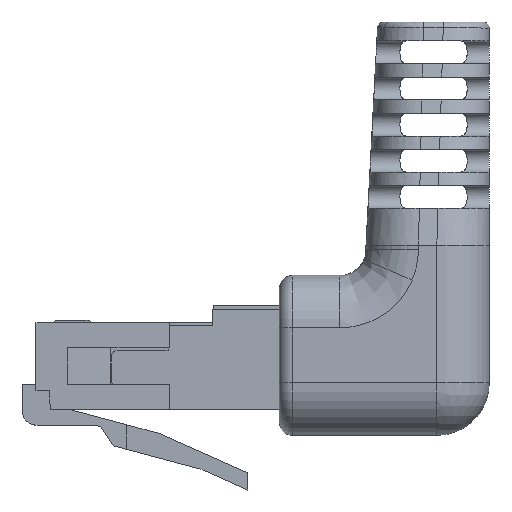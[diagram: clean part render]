
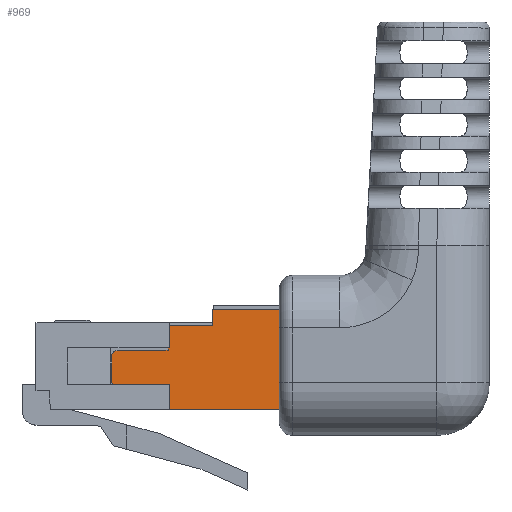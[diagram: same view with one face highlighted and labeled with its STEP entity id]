
A CAD part, left-side view. The second image highlights one B-rep face of the part: STEP entity #969.
In plain terms, the highlighted planar face has unit normal (-1, 0, 0).
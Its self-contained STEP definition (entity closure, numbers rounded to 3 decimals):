
#131=CARTESIAN_POINT('',(-5.824,16.492,-9.079));
#132=VERTEX_POINT('',#131);
#147=CARTESIAN_POINT('',(-5.824,16.492,-9.273));
#148=VERTEX_POINT('',#147);
#155=CARTESIAN_POINT('',(-5.824,16.492,-9.273));
#156=DIRECTION('',(0.0,0.0,1.0));
#157=VECTOR('',#156,0.194);
#158=LINE('',#155,#157);
#159=EDGE_CURVE('',#148,#132,#158,.T.);
#581=CARTESIAN_POINT('',(-5.824,20.692,-11.873));
#582=VERTEX_POINT('',#581);
#591=CARTESIAN_POINT('',(-5.824,20.792,-11.573));
#592=VERTEX_POINT('',#591);
#593=CARTESIAN_POINT('',(-5.824,20.292,-11.573));
#594=DIRECTION('',(1.0,0.,0.));
#595=DIRECTION('',(0.,0.707,-0.707));
#596=AXIS2_PLACEMENT_3D('',#593,#594,#595);
#597=CIRCLE('',#596,0.5);
#598=EDGE_CURVE('',#582,#592,#597,.T.);
#624=CARTESIAN_POINT('',(-5.824,20.792,-9.773));
#625=VERTEX_POINT('',#624);
#626=CARTESIAN_POINT('',(-5.824,20.792,-11.573));
#627=DIRECTION('',(0.0,0.0,1.0));
#628=VECTOR('',#627,1.8);
#629=LINE('',#626,#628);
#630=EDGE_CURVE('',#592,#625,#629,.T.);
#654=CARTESIAN_POINT('',(-5.824,20.292,-9.273));
#655=VERTEX_POINT('',#654);
#656=CARTESIAN_POINT('',(-5.824,20.292,-9.773));
#657=DIRECTION('',(1.0,0.,0.));
#658=DIRECTION('',(0.,0.707,0.707));
#659=AXIS2_PLACEMENT_3D('',#656,#657,#658);
#660=CIRCLE('',#659,0.5);
#661=EDGE_CURVE('',#625,#655,#660,.T.);
#759=CARTESIAN_POINT('',(-5.825,8.008,-13.773));
#760=VERTEX_POINT('',#759);
#769=CARTESIAN_POINT('',(-5.824,16.392,-13.773));
#770=VERTEX_POINT('',#769);
#771=CARTESIAN_POINT('',(-5.825,8.008,-13.773));
#772=DIRECTION('',(0.0,1.0,0.0));
#773=VECTOR('',#772,8.384);
#774=LINE('',#771,#773);
#775=EDGE_CURVE('',#760,#770,#774,.T.);
#801=CARTESIAN_POINT('',(-5.824,20.292,-9.273));
#802=DIRECTION('',(0.0,-1.0,0.0));
#803=VECTOR('',#802,3.8);
#804=LINE('',#801,#803);
#805=EDGE_CURVE('',#655,#148,#804,.T.);
#822=CARTESIAN_POINT('',(-5.824,16.392,-7.373));
#823=VERTEX_POINT('',#822);
#832=CARTESIAN_POINT('',(-5.824,13.092,-7.373));
#833=VERTEX_POINT('',#832);
#834=CARTESIAN_POINT('',(-5.824,16.392,-7.373));
#835=DIRECTION('',(0.0,-1.0,0.0));
#836=VECTOR('',#835,3.3);
#837=LINE('',#834,#836);
#838=EDGE_CURVE('',#823,#833,#837,.T.);
#870=CARTESIAN_POINT('',(-5.824,13.092,-6.173));
#871=VERTEX_POINT('',#870);
#872=CARTESIAN_POINT('',(-5.824,13.092,-7.373));
#873=DIRECTION('',(0.0,0.0,1.0));
#874=VECTOR('',#873,1.2);
#875=LINE('',#872,#874);
#876=EDGE_CURVE('',#833,#871,#875,.T.);
#894=CARTESIAN_POINT('',(-5.825,8.008,-6.173));
#895=VERTEX_POINT('',#894);
#910=CARTESIAN_POINT('',(-5.824,13.092,-6.173));
#911=DIRECTION('',(0.0,-1.0,0.0));
#912=VECTOR('',#911,5.084);
#913=LINE('',#910,#912);
#914=EDGE_CURVE('',#871,#895,#913,.T.);
#919=CARTESIAN_POINT('',(-5.825,12.408,-10.186));
#920=DIRECTION('',(-1.0,0.0,0.0));
#921=DIRECTION('',(0.0,1.0,0.0));
#922=AXIS2_PLACEMENT_3D('',#919,#920,#921);
#923=PLANE('',#922);
#924=CARTESIAN_POINT('',(-5.824,16.392,-9.079));
#925=VERTEX_POINT('',#924);
#926=CARTESIAN_POINT('',(-5.824,16.492,-9.079));
#927=DIRECTION('',(0.0,-1.0,0.0));
#928=VECTOR('',#927,0.1);
#929=LINE('',#926,#928);
#930=EDGE_CURVE('',#132,#925,#929,.T.);
#931=ORIENTED_EDGE('',*,*,#930,.F.);
#932=ORIENTED_EDGE('',*,*,#159,.F.);
#933=ORIENTED_EDGE('',*,*,#805,.F.);
#934=ORIENTED_EDGE('',*,*,#661,.F.);
#935=ORIENTED_EDGE('',*,*,#630,.F.);
#936=ORIENTED_EDGE('',*,*,#598,.F.);
#937=CARTESIAN_POINT('',(-5.824,16.392,-11.873));
#938=VERTEX_POINT('',#937);
#939=CARTESIAN_POINT('',(-5.824,16.392,-11.873));
#940=DIRECTION('',(0.0,1.0,0.0));
#941=VECTOR('',#940,4.3);
#942=LINE('',#939,#941);
#943=EDGE_CURVE('',#938,#582,#942,.T.);
#944=ORIENTED_EDGE('',*,*,#943,.F.);
#945=CARTESIAN_POINT('',(-5.824,16.392,-13.773));
#946=DIRECTION('',(0.0,0.0,1.0));
#947=VECTOR('',#946,1.9);
#948=LINE('',#945,#947);
#949=EDGE_CURVE('',#770,#938,#948,.T.);
#950=ORIENTED_EDGE('',*,*,#949,.F.);
#951=ORIENTED_EDGE('',*,*,#775,.F.);
#952=CARTESIAN_POINT('',(-5.825,8.008,-6.173));
#953=DIRECTION('',(0.0,0.0,-1.0));
#954=VECTOR('',#953,7.6);
#955=LINE('',#952,#954);
#956=EDGE_CURVE('',#895,#760,#955,.T.);
#957=ORIENTED_EDGE('',*,*,#956,.F.);
#958=ORIENTED_EDGE('',*,*,#914,.F.);
#959=ORIENTED_EDGE('',*,*,#876,.F.);
#960=ORIENTED_EDGE('',*,*,#838,.F.);
#961=CARTESIAN_POINT('',(-5.824,16.392,-9.079));
#962=DIRECTION('',(0.0,0.0,1.0));
#963=VECTOR('',#962,1.706);
#964=LINE('',#961,#963);
#965=EDGE_CURVE('',#925,#823,#964,.T.);
#966=ORIENTED_EDGE('',*,*,#965,.F.);
#967=EDGE_LOOP('',(#931,#932,#933,#934,#935,#936,#944,#950,#951,#957,#958,#959,#960,#966));
#968=FACE_OUTER_BOUND('',#967,.T.);
#969=ADVANCED_FACE('',(#968),#923,.T.);
